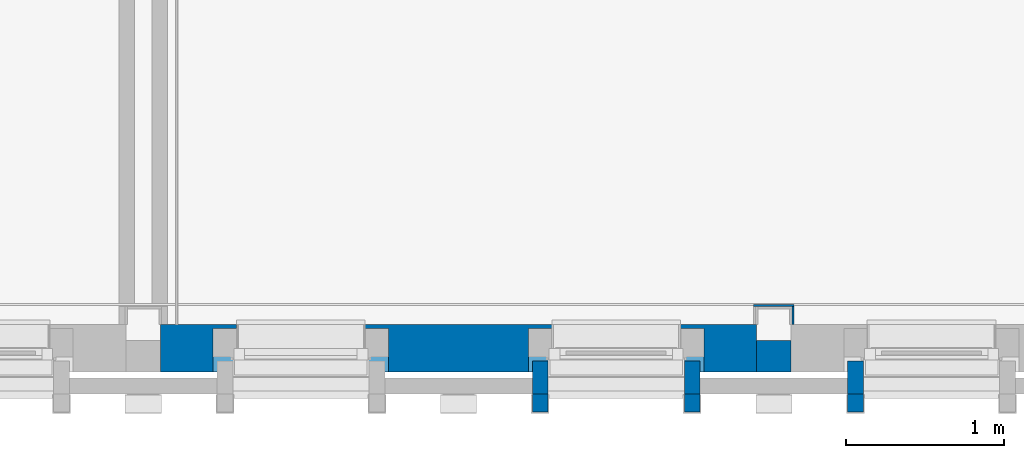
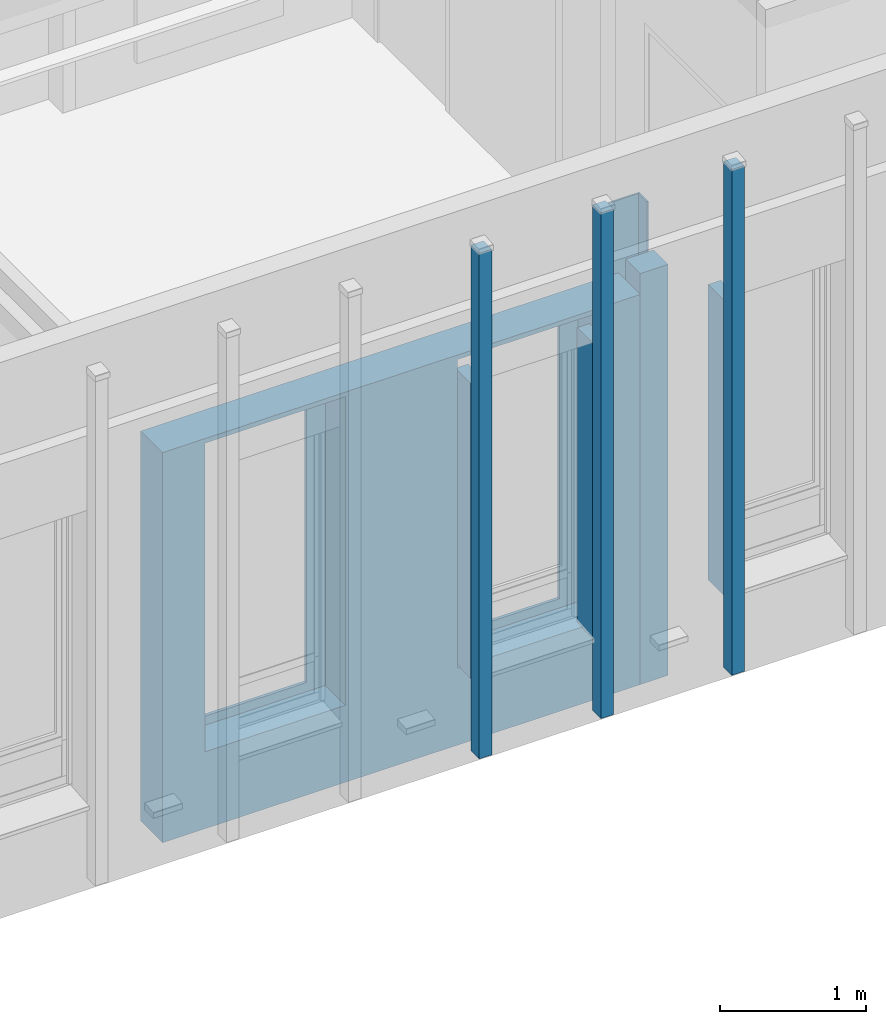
# One storey, part 38 of 118: 10 walls, 12 openings.
"""IFC2X3 building model written with IfcOpenShell, lengths in millimetres."""

from ifc_helpers import new_model, entity, si_unit, converted_unit, derived_unit, direction, frame, frame_2d, origin, place, context, subcontext, project, spatial, rectangle, extrude, faceted_brep, material, layer, layer_set, layer_usage, type_object, element, save


model = new_model("IFC2X3")

# Units and contexts
model_context = context("Model", 3, precision=0.01, world=origin(), true_north=direction((6.123031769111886e-17, 1.0)))
plan_context = context("Plan", 3, precision=0.01, world=origin(), true_north=direction((6.123031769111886e-17, 1.0)))
body_context = subcontext(model_context, "Body", "Model", "MODEL_VIEW")
ifc_project = project(units=[si_unit("LENGTHUNIT", "METRE", prefix="MILLI"), si_unit("AREAUNIT", "SQUARE_METRE"), si_unit("VOLUMEUNIT", "CUBIC_METRE"), converted_unit("PLANEANGLEUNIT", "DEGREE", entity("IfcRatioMeasure", 0.017453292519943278), si_unit("PLANEANGLEUNIT", "RADIAN"), dimensions=[0, 0, 0, 0, 0, 0, 0]), si_unit("MASSUNIT", "GRAM", prefix="KILO"), derived_unit("MASSDENSITYUNIT", [(si_unit("MASSUNIT", "GRAM", prefix="KILO"), 1), (si_unit("LENGTHUNIT", "METRE"), -3)]), derived_unit("IONCONCENTRATIONUNIT", [(si_unit("MASSUNIT", "GRAM", prefix="KILO"), 1), (si_unit("LENGTHUNIT", "METRE"), -3)]), derived_unit("MOMENTOFINERTIAUNIT", [(si_unit("LENGTHUNIT", "METRE"), 4)]), si_unit("TIMEUNIT", "SECOND"), si_unit("FREQUENCYUNIT", "HERTZ"), si_unit("THERMODYNAMICTEMPERATUREUNIT", "DEGREE_CELSIUS"), derived_unit("THERMALTRANSMITTANCEUNIT", [(si_unit("MASSUNIT", "GRAM", prefix="KILO"), 1), (si_unit("THERMODYNAMICTEMPERATUREUNIT", "KELVIN"), -1), (si_unit("TIMEUNIT", "SECOND"), -3)]), derived_unit("THERMALCONDUCTANCEUNIT", [(si_unit("MASSUNIT", "GRAM", prefix="KILO"), 1), (si_unit("THERMODYNAMICTEMPERATUREUNIT", "KELVIN"), -1), (si_unit("TIMEUNIT", "SECOND"), -3), (si_unit("LENGTHUNIT", "METRE"), 1)]), derived_unit("VOLUMETRICFLOWRATEUNIT", [(si_unit("LENGTHUNIT", "METRE"), 3), (si_unit("TIMEUNIT", "SECOND"), -1)]), derived_unit("MASSFLOWRATEUNIT", [(si_unit("MASSUNIT", "GRAM", prefix="KILO"), 1), (si_unit("TIMEUNIT", "SECOND"), -1)]), derived_unit("ROTATIONALFREQUENCYUNIT", [(si_unit("TIMEUNIT", "SECOND"), -1)]), si_unit("ELECTRICCURRENTUNIT", "AMPERE"), si_unit("ELECTRICVOLTAGEUNIT", "VOLT"), si_unit("POWERUNIT", "WATT"), si_unit("FORCEUNIT", "NEWTON", prefix="KILO"), si_unit("ILLUMINANCEUNIT", "LUX"), si_unit("LUMINOUSFLUXUNIT", "LUMEN"), si_unit("LUMINOUSINTENSITYUNIT", "CANDELA"), derived_unit("USERDEFINED", [(si_unit("MASSUNIT", "GRAM", prefix="KILO"), -1), (si_unit("LENGTHUNIT", "METRE"), -2), (si_unit("TIMEUNIT", "SECOND"), 3), (si_unit("LUMINOUSFLUXUNIT", "LUMEN"), 1)]), derived_unit("USERDEFINED", [(si_unit("MASSUNIT", "GRAM", prefix="KILO"), 1), (si_unit("TIMEUNIT", "SECOND"), -3), (si_unit("LENGTHUNIT", "METRE"), 3), (si_unit("ELECTRICCURRENTUNIT", "AMPERE"), -2)]), derived_unit("SOUNDPOWERUNIT", [(si_unit("MASSUNIT", "GRAM", prefix="KILO"), 1), (si_unit("TIMEUNIT", "SECOND"), -3), (si_unit("LENGTHUNIT", "METRE"), 2)]), derived_unit("SOUNDPRESSUREUNIT", [(si_unit("MASSUNIT", "GRAM", prefix="KILO"), 1), (si_unit("LENGTHUNIT", "METRE"), -1), (si_unit("TIMEUNIT", "SECOND"), -2)]), derived_unit("LINEARVELOCITYUNIT", [(si_unit("LENGTHUNIT", "METRE"), 1), (si_unit("TIMEUNIT", "SECOND"), -1)]), si_unit("PRESSUREUNIT", "PASCAL"), derived_unit("USERDEFINED", [(si_unit("MASSUNIT", "GRAM", prefix="KILO"), 1), (si_unit("LENGTHUNIT", "METRE"), -2), (si_unit("TIMEUNIT", "SECOND"), -2)]), derived_unit("LINEARFORCEUNIT", [(si_unit("MASSUNIT", "GRAM", prefix="KILO"), 1), (si_unit("TIMEUNIT", "SECOND"), -2)]), derived_unit("PLANARFORCEUNIT", [(si_unit("MASSUNIT", "GRAM", prefix="KILO"), 1), (si_unit("LENGTHUNIT", "METRE"), -1), (si_unit("TIMEUNIT", "SECOND"), -2)]), derived_unit("SPECIFICHEATCAPACITYUNIT", [(si_unit("THERMODYNAMICTEMPERATUREUNIT", "KELVIN"), -1), (si_unit("LENGTHUNIT", "METRE"), 2), (si_unit("TIMEUNIT", "SECOND"), -2)]), derived_unit("HEATINGVALUEUNIT", [(si_unit("LENGTHUNIT", "METRE"), 2), (si_unit("TIMEUNIT", "SECOND"), -2)]), derived_unit("VAPORPERMEABILITYUNIT", [(si_unit("LENGTHUNIT", "METRE"), -1), (si_unit("TIMEUNIT", "SECOND"), 1)]), derived_unit("DYNAMICVISCOSITYUNIT", [(si_unit("MASSUNIT", "GRAM", prefix="KILO"), 1), (si_unit("TIMEUNIT", "SECOND"), -1), (si_unit("LENGTHUNIT", "METRE"), -1)]), derived_unit("THERMALEXPANSIONCOEFFICIENTUNIT", [(si_unit("THERMODYNAMICTEMPERATUREUNIT", "KELVIN"), -1)]), derived_unit("MODULUSOFELASTICITYUNIT", [(si_unit("MASSUNIT", "GRAM", prefix="KILO"), 1), (si_unit("LENGTHUNIT", "METRE"), -1), (si_unit("TIMEUNIT", "SECOND"), -2)]), derived_unit("ISOTHERMALMOISTURECAPACITYUNIT", [(si_unit("LENGTHUNIT", "METRE"), 3), (si_unit("MASSUNIT", "GRAM", prefix="KILO"), -1)]), derived_unit("MOISTUREDIFFUSIVITYUNIT", [(si_unit("TIMEUNIT", "SECOND"), -1), (si_unit("LENGTHUNIT", "METRE"), 2)])], contexts=[model_context, plan_context])

# Site, building, storey
site_placement = place(None, origin())
site = spatial("IfcSite", under=ifc_project, at=site_placement, Name="Locatie", CompositionType="ELEMENT")
building_placement = place(site_placement, origin())
building = spatial("IfcBuilding", under=site, at=building_placement, Name="Bouwwerk", CompositionType="ELEMENT")
storey_placement = place(building_placement, frame((0.0, 0.0, 7800.0)))
storey = spatial("IfcBuildingStorey", under=building, at=storey_placement, Name="02 tweede verdieping", CompositionType="ELEMENT", Elevation=7800.000000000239)

# Wall, openings
ifc_material_1 = material(Name="n7_isolatie_glaswol")
ifc_layer_1 = layer(ifc_material_1, 30.0)
ifc_layer_2 = layer(ifc_material_1, 245.0)
ifc_material_2 = material(Name="i4_multiplex")
ifc_layer_3 = layer(ifc_material_2, 12.0)
ifc_material_3 = material(Name="f7_gipsvezel")
ifc_layer_4 = layer(ifc_material_3, 13.000000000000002)
ifc_layer_set_1 = layer_set([ifc_layer_1, ifc_layer_2, ifc_layer_3, ifc_layer_4], Name="Basic Wall:NLRS_22_WA_HSB bispouw 30-245-12-13 glaswol_gen_ISR")
ifc_layer_usage_1 = layer_usage(ifc_layer_set_1, "AXIS2", "NEGATIVE", 150.0)
wall_type_1 = type_object("IfcWallType", Name="Basic Wall:NLRS_22_WA_HSB bispouw 30-245-12-13 glaswol_gen_ISR", PredefinedType="STANDARD", material=ifc_layer_set_1)
wall_1_placement = place(storey_placement, frame((28190.0, 9850.0, -30.0), z_axis=(0.0, 0.0, 1.0), x_axis=(-1.0, 0.0, 0.0)))
wall_1 = element("IfcWallStandardCase", 1, at=wall_1_placement, inside=storey, type_object=wall_type_1, material=ifc_layer_usage_1, Name="Basic Wall:NLRS_22_WA_HSB bispouw 30-245-12-13 glaswol_gen_ISR", ObjectType="Basic Wall:NLRS_22_WA_HSB bispouw 30-245-12-13 glaswol_gen_ISR", context=body_context, shape_type="SweptSolid", body=[
    extrude(rectangle(XDim=3780.0000000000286, YDim=300.0000000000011, at=frame_2d((1890.0000000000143, 0.0), x_axis=(-1.0, 0.0))), origin(), (0.0, 0.0, 1.0), 3265.000000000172),
])
opening_1_placement = place(wall_1_placement, frame((-4554.0, 290.0, 633.0)))
element("IfcOpeningElement", 2, at=opening_1_placement, cuts=wall_1, Name="Basic Wall:NLRS_22_WA_HSB bispouw 30-245-12-13 glaswol_gen_ISR", ObjectType="Opening", context=body_context, shape_type="Brep", body=[
    faceted_brep([(-24.0, -100.0, 2472.0), (-103.0, -100.0, 2472.0), (-103.0, -100.0, 42.0), (-1009.0, -100.0, 42.0), (-1009.0, -100.0, 2472.0), (-1088.0, -100.0, 2472.0), (-1088.0, -100.0, 0.0), (-24.0, -100.0, 0.0), (-1088.0, 0.0, 2472.0), (-24.0, 0.0, 2472.0), (-24.0, 0.0, 0.0), (-1088.0, 0.0, 0.0), (-1112.0, -415.0, 2594.0), (-1112.0, -415.0, 11.0), (0.0, -415.0, 11.0), (0.0, -415.0, 2594.0), (-964.0, -415.0, 2443.0), (-148.0, -415.0, 2443.0), (-148.0, -415.0, 87.0), (-964.0, -415.0, 87.0), (-1112.0, -140.0, 2594.0), (0.0, -140.0, 2594.0), (0.0, -140.0, 11.0), (-1112.0, -140.0, 11.0), (-1009.0, -140.0, 42.0), (-103.0, -140.0, 42.0), (-103.0, -140.0, 2508.0), (-1009.0, -140.0, 2508.0), (-103.0, -100.0, 2508.0), (-1009.0, -100.0, 2508.0), (-964.0, -615.0, 2443.0), (-964.0, -615.0, 87.0), (-148.0, -615.0, 87.0), (-148.0, -615.0, 2443.0)], [[[0, 1, 2, 3, 4, 5, 6, 7]], [[8, 9, 10, 11]], [[5, 8, 11, 6]], [[6, 11, 10, 7]], [[7, 10, 9, 0]], [[8, 5, 4, 1, 0, 9]], [[12, 13, 14, 15], [16, 17, 18, 19]], [[20, 21, 22, 23], [24, 25, 26, 27]], [[12, 20, 23, 13]], [[13, 23, 22, 14]], [[14, 22, 21, 15]], [[15, 21, 20, 12]], [[28, 1, 4, 29]], [[24, 27, 29, 4, 3]], [[3, 2, 25, 24]], [[2, 1, 28, 26, 25]], [[29, 27, 26, 28]], [[30, 31, 32, 33]], [[30, 16, 19, 31]], [[31, 19, 18, 32]], [[32, 18, 17, 33]], [[33, 17, 16, 30]]]),
])
opening_2_placement = place(wall_1_placement, frame((-2554.0, 290.0, 633.0)))
element("IfcOpeningElement", 3, at=opening_2_placement, cuts=wall_1, Name="Basic Wall:NLRS_22_WA_HSB bispouw 30-245-12-13 glaswol_gen_ISR", ObjectType="Opening", context=body_context, shape_type="Brep", body=[
    faceted_brep([(-24.0, -100.0, 2472.0), (-103.0, -100.0, 2472.0), (-103.0, -100.0, 42.0), (-1009.0, -100.0, 42.0), (-1009.0, -100.0, 2472.0), (-1088.0, -100.0, 2472.0), (-1088.0, -100.0, 0.0), (-24.0, -100.0, 0.0), (-1088.0, 0.0, 2472.0), (-24.0, 0.0, 2472.0), (-24.0, 0.0, 0.0), (-1088.0, 0.0, 0.0), (-1112.0, -415.0, 2594.0), (-1112.0, -415.0, 11.0), (0.0, -415.0, 11.0), (0.0, -415.0, 2594.0), (-964.0, -415.0, 2443.0), (-148.0, -415.0, 2443.0), (-148.0, -415.0, 87.0), (-964.0, -415.0, 87.0), (-1112.0, -140.0, 2594.0), (0.0, -140.0, 2594.0), (0.0, -140.0, 11.0), (-1112.0, -140.0, 11.0), (-1009.0, -140.0, 42.0), (-103.0, -140.0, 42.0), (-103.0, -140.0, 2508.0), (-1009.0, -140.0, 2508.0), (-103.0, -100.0, 2508.0), (-1009.0, -100.0, 2508.0), (-964.0, -615.0, 2443.0), (-964.0, -615.0, 87.0), (-148.0, -615.0, 87.0), (-148.0, -615.0, 2443.0)], [[[0, 1, 2, 3, 4, 5, 6, 7]], [[8, 9, 10, 11]], [[5, 8, 11, 6]], [[6, 11, 10, 7]], [[7, 10, 9, 0]], [[8, 5, 4, 1, 0, 9]], [[12, 13, 14, 15], [16, 17, 18, 19]], [[20, 21, 22, 23], [24, 25, 26, 27]], [[12, 20, 23, 13]], [[13, 23, 22, 14]], [[14, 22, 21, 15]], [[15, 21, 20, 12]], [[28, 1, 4, 29]], [[24, 27, 29, 4, 3]], [[3, 2, 25, 24]], [[2, 1, 28, 26, 25]], [[29, 27, 26, 28]], [[30, 31, 32, 33]], [[30, 16, 19, 31]], [[31, 19, 18, 32]], [[32, 18, 17, 33]], [[33, 17, 16, 30]]]),
])
opening_3_placement = place(wall_1_placement, frame((-554.0, 290.0, 633.0)))
element("IfcOpeningElement", 4, at=opening_3_placement, cuts=wall_1, Name="Basic Wall:NLRS_22_WA_HSB bispouw 30-245-12-13 glaswol_gen_ISR", ObjectType="Opening", context=body_context, shape_type="Brep", body=[
    faceted_brep([(-24.0, -100.0, 2472.0), (-103.0, -100.0, 2472.0), (-103.0, -100.0, 42.0), (-1009.0, -100.0, 42.0), (-1009.0, -100.0, 2472.0), (-1088.0, -100.0, 2472.0), (-1088.0, -100.0, 0.0), (-24.0, -100.0, 0.0), (-1088.0, 0.0, 2472.0), (-24.0, 0.0, 2472.0), (-24.0, 0.0, 0.0), (-1088.0, 0.0, 0.0), (-1112.0, -415.0, 2594.0), (-1112.0, -415.0, 11.0), (0.0, -415.0, 11.0), (0.0, -415.0, 2594.0), (-964.0, -415.0, 2443.0), (-148.0, -415.0, 2443.0), (-148.0, -415.0, 87.0), (-964.0, -415.0, 87.0), (-1112.0, -140.0, 2594.0), (0.0, -140.0, 2594.0), (0.0, -140.0, 11.0), (-1112.0, -140.0, 11.0), (-1009.0, -140.0, 42.0), (-103.0, -140.0, 42.0), (-103.0, -140.0, 2508.0), (-1009.0, -140.0, 2508.0), (-103.0, -100.0, 2508.0), (-1009.0, -100.0, 2508.0), (-964.0, -615.0, 2443.0), (-964.0, -615.0, 87.0), (-148.0, -615.0, 87.0), (-148.0, -615.0, 2443.0)], [[[0, 1, 2, 3, 4, 5, 6, 7]], [[8, 9, 10, 11]], [[5, 8, 11, 6]], [[6, 11, 10, 7]], [[7, 10, 9, 0]], [[8, 5, 4, 1, 0, 9]], [[12, 13, 14, 15], [16, 17, 18, 19]], [[20, 21, 22, 23], [24, 25, 26, 27]], [[12, 20, 23, 13]], [[13, 23, 22, 14]], [[14, 22, 21, 15]], [[15, 21, 20, 12]], [[28, 1, 4, 29]], [[24, 27, 29, 4, 3]], [[3, 2, 25, 24]], [[2, 1, 28, 26, 25]], [[29, 27, 26, 28]], [[30, 31, 32, 33]], [[30, 16, 19, 31]], [[31, 19, 18, 32]], [[32, 18, 17, 33]], [[33, 17, 16, 30]]]),
])
opening_4_placement = place(wall_1_placement, frame((7446.0, 290.0, 633.0)))
element("IfcOpeningElement", 5, at=opening_4_placement, cuts=wall_1, Name="Basic Wall:NLRS_22_WA_HSB bispouw 30-245-12-13 glaswol_gen_ISR", ObjectType="Opening", context=body_context, shape_type="Brep", body=[
    faceted_brep([(-24.0, -100.0, 2472.0), (-103.0, -100.0, 2472.0), (-103.0, -100.0, 42.0), (-1009.0, -100.0, 42.0), (-1009.0, -100.0, 2472.0), (-1088.0, -100.0, 2472.0), (-1088.0, -100.0, 0.0), (-24.0, -100.0, 0.0), (-1088.0, 0.0, 2472.0), (-24.0, 0.0, 2472.0), (-24.0, 0.0, 0.0), (-1088.0, 0.0, 0.0), (-1112.0, -415.0, 2594.0), (-1112.0, -415.0, 11.0), (0.0, -415.0, 11.0), (0.0, -415.0, 2594.0), (-964.0, -415.0, 2443.0), (-148.0, -415.0, 2443.0), (-148.0, -415.0, 87.0), (-964.0, -415.0, 87.0), (-1112.0, -140.0, 2594.0), (0.0, -140.0, 2594.0), (0.0, -140.0, 11.0), (-1112.0, -140.0, 11.0), (-1009.0, -140.0, 42.0), (-103.0, -140.0, 42.0), (-103.0, -140.0, 2508.0), (-1009.0, -140.0, 2508.0), (-103.0, -100.0, 2508.0), (-1009.0, -100.0, 2508.0), (-964.0, -615.0, 2443.0), (-964.0, -615.0, 87.0), (-148.0, -615.0, 87.0), (-148.0, -615.0, 2443.0)], [[[0, 1, 2, 3, 4, 5, 6, 7]], [[8, 9, 10, 11]], [[5, 8, 11, 6]], [[6, 11, 10, 7]], [[7, 10, 9, 0]], [[8, 5, 4, 1, 0, 9]], [[12, 13, 14, 15], [16, 17, 18, 19]], [[20, 21, 22, 23], [24, 25, 26, 27]], [[12, 20, 23, 13]], [[13, 23, 22, 14]], [[14, 22, 21, 15]], [[15, 21, 20, 12]], [[28, 1, 4, 29]], [[24, 27, 29, 4, 3]], [[3, 2, 25, 24]], [[2, 1, 28, 26, 25]], [[29, 27, 26, 28]], [[30, 31, 32, 33]], [[30, 16, 19, 31]], [[31, 19, 18, 32]], [[32, 18, 17, 33]], [[33, 17, 16, 30]]]),
])
opening_5_placement = place(wall_1_placement, frame((9446.0, 290.0, 633.0)))
element("IfcOpeningElement", 6, at=opening_5_placement, cuts=wall_1, Name="Basic Wall:NLRS_22_WA_HSB bispouw 30-245-12-13 glaswol_gen_ISR", ObjectType="Opening", context=body_context, shape_type="Brep", body=[
    faceted_brep([(-24.0, -100.0, 2472.0), (-103.0, -100.0, 2472.0), (-103.0, -100.0, 42.0), (-1009.0, -100.0, 42.0), (-1009.0, -100.0, 2472.0), (-1088.0, -100.0, 2472.0), (-1088.0, -100.0, 0.0), (-24.0, -100.0, 0.0), (-1088.0, 0.0, 2472.0), (-24.0, 0.0, 2472.0), (-24.0, 0.0, 0.0), (-1088.0, 0.0, 0.0), (-1112.0, -415.0, 2594.0), (-1112.0, -415.0, 11.0), (0.0, -415.0, 11.0), (0.0, -415.0, 2594.0), (-964.0, -415.0, 2443.0), (-148.0, -415.0, 2443.0), (-148.0, -415.0, 87.0), (-964.0, -415.0, 87.0), (-1112.0, -140.0, 2594.0), (0.0, -140.0, 2594.0), (0.0, -140.0, 11.0), (-1112.0, -140.0, 11.0), (-1009.0, -140.0, 42.0), (-103.0, -140.0, 42.0), (-103.0, -140.0, 2508.0), (-1009.0, -140.0, 2508.0), (-103.0, -100.0, 2508.0), (-1009.0, -100.0, 2508.0), (-964.0, -615.0, 2443.0), (-964.0, -615.0, 87.0), (-148.0, -615.0, 87.0), (-148.0, -615.0, 2443.0)], [[[0, 1, 2, 3, 4, 5, 6, 7]], [[8, 9, 10, 11]], [[5, 8, 11, 6]], [[6, 11, 10, 7]], [[7, 10, 9, 0]], [[8, 5, 4, 1, 0, 9]], [[12, 13, 14, 15], [16, 17, 18, 19]], [[20, 21, 22, 23], [24, 25, 26, 27]], [[12, 20, 23, 13]], [[13, 23, 22, 14]], [[14, 22, 21, 15]], [[15, 21, 20, 12]], [[28, 1, 4, 29]], [[24, 27, 29, 4, 3]], [[3, 2, 25, 24]], [[2, 1, 28, 26, 25]], [[29, 27, 26, 28]], [[30, 31, 32, 33]], [[30, 16, 19, 31]], [[31, 19, 18, 32]], [[32, 18, 17, 33]], [[33, 17, 16, 30]]]),
])
opening_6_placement = place(wall_1_placement, frame((11446.0, 290.0, 633.0)))
element("IfcOpeningElement", 7, at=opening_6_placement, cuts=wall_1, Name="Basic Wall:NLRS_22_WA_HSB bispouw 30-245-12-13 glaswol_gen_ISR", ObjectType="Opening", context=body_context, shape_type="Brep", body=[
    faceted_brep([(-24.0, -100.0, 2472.0), (-103.0, -100.0, 2472.0), (-103.0, -100.0, 42.0), (-1009.0, -100.0, 42.0), (-1009.0, -100.0, 2472.0), (-1088.0, -100.0, 2472.0), (-1088.0, -100.0, 0.0), (-24.0, -100.0, 0.0), (-1088.0, 0.0, 2472.0), (-24.0, 0.0, 2472.0), (-24.0, 0.0, 0.0), (-1088.0, 0.0, 0.0), (-1112.0, -415.0, 2594.0), (-1112.0, -415.0, 11.0), (0.0, -415.0, 11.0), (0.0, -415.0, 2594.0), (-964.0, -415.0, 2443.0), (-148.0, -415.0, 2443.0), (-148.0, -415.0, 87.0), (-964.0, -415.0, 87.0), (-1112.0, -140.0, 2594.0), (0.0, -140.0, 2594.0), (0.0, -140.0, 11.0), (-1112.0, -140.0, 11.0), (-1009.0, -140.0, 42.0), (-103.0, -140.0, 42.0), (-103.0, -140.0, 2508.0), (-1009.0, -140.0, 2508.0), (-103.0, -100.0, 2508.0), (-1009.0, -100.0, 2508.0), (-964.0, -615.0, 2443.0), (-964.0, -615.0, 87.0), (-148.0, -615.0, 87.0), (-148.0, -615.0, 2443.0)], [[[0, 1, 2, 3, 4, 5, 6, 7]], [[8, 9, 10, 11]], [[5, 8, 11, 6]], [[6, 11, 10, 7]], [[7, 10, 9, 0]], [[8, 5, 4, 1, 0, 9]], [[12, 13, 14, 15], [16, 17, 18, 19]], [[20, 21, 22, 23], [24, 25, 26, 27]], [[12, 20, 23, 13]], [[13, 23, 22, 14]], [[14, 22, 21, 15]], [[15, 21, 20, 12]], [[28, 1, 4, 29]], [[24, 27, 29, 4, 3]], [[3, 2, 25, 24]], [[2, 1, 28, 26, 25]], [[29, 27, 26, 28]], [[30, 31, 32, 33]], [[30, 16, 19, 31]], [[31, 19, 18, 32]], [[32, 18, 17, 33]], [[33, 17, 16, 30]]]),
])
opening_7_placement = place(wall_1_placement, frame((13446.0, 290.0, 633.0)))
element("IfcOpeningElement", 8, at=opening_7_placement, cuts=wall_1, Name="Basic Wall:NLRS_22_WA_HSB bispouw 30-245-12-13 glaswol_gen_ISR", ObjectType="Opening", context=body_context, shape_type="Brep", body=[
    faceted_brep([(-24.0, -100.0, 2472.0), (-103.0, -100.0, 2472.0), (-103.0, -100.0, 42.0), (-1009.0, -100.0, 42.0), (-1009.0, -100.0, 2472.0), (-1088.0, -100.0, 2472.0), (-1088.0, -100.0, 0.0), (-24.0, -100.0, 0.0), (-1088.0, 0.0, 2472.0), (-24.0, 0.0, 2472.0), (-24.0, 0.0, 0.0), (-1088.0, 0.0, 0.0), (-1112.0, -415.0, 2594.0), (-1112.0, -415.0, 11.0), (0.0, -415.0, 11.0), (0.0, -415.0, 2594.0), (-964.0, -415.0, 2443.0), (-148.0, -415.0, 2443.0), (-148.0, -415.0, 87.0), (-964.0, -415.0, 87.0), (-1112.0, -140.0, 2594.0), (0.0, -140.0, 2594.0), (0.0, -140.0, 11.0), (-1112.0, -140.0, 11.0), (-1009.0, -140.0, 42.0), (-103.0, -140.0, 42.0), (-103.0, -140.0, 2508.0), (-1009.0, -140.0, 2508.0), (-103.0, -100.0, 2508.0), (-1009.0, -100.0, 2508.0), (-964.0, -615.0, 2443.0), (-964.0, -615.0, 87.0), (-148.0, -615.0, 87.0), (-148.0, -615.0, 2443.0)], [[[0, 1, 2, 3, 4, 5, 6, 7]], [[8, 9, 10, 11]], [[5, 8, 11, 6]], [[6, 11, 10, 7]], [[7, 10, 9, 0]], [[8, 5, 4, 1, 0, 9]], [[12, 13, 14, 15], [16, 17, 18, 19]], [[20, 21, 22, 23], [24, 25, 26, 27]], [[12, 20, 23, 13]], [[13, 23, 22, 14]], [[14, 22, 21, 15]], [[15, 21, 20, 12]], [[28, 1, 4, 29]], [[24, 27, 29, 4, 3]], [[3, 2, 25, 24]], [[2, 1, 28, 26, 25]], [[29, 27, 26, 28]], [[30, 31, 32, 33]], [[30, 16, 19, 31]], [[31, 19, 18, 32]], [[32, 18, 17, 33]], [[33, 17, 16, 30]]]),
])
opening_8_placement = place(wall_1_placement, frame((15446.0, 290.0, 633.0)))
element("IfcOpeningElement", 9, at=opening_8_placement, cuts=wall_1, Name="Basic Wall:NLRS_22_WA_HSB bispouw 30-245-12-13 glaswol_gen_ISR", ObjectType="Opening", context=body_context, shape_type="Brep", body=[
    faceted_brep([(-24.0, -100.0, 2472.0), (-103.0, -100.0, 2472.0), (-103.0, -100.0, 42.0), (-1009.0, -100.0, 42.0), (-1009.0, -100.0, 2472.0), (-1088.0, -100.0, 2472.0), (-1088.0, -100.0, 0.0), (-24.0, -100.0, 0.0), (-1088.0, 0.0, 2472.0), (-24.0, 0.0, 2472.0), (-24.0, 0.0, 0.0), (-1088.0, 0.0, 0.0), (-1112.0, -415.0, 2594.0), (-1112.0, -415.0, 11.0), (0.0, -415.0, 11.0), (0.0, -415.0, 2594.0), (-964.0, -415.0, 2443.0), (-148.0, -415.0, 2443.0), (-148.0, -415.0, 87.0), (-964.0, -415.0, 87.0), (-1112.0, -140.0, 2594.0), (0.0, -140.0, 2594.0), (0.0, -140.0, 11.0), (-1112.0, -140.0, 11.0), (-1009.0, -140.0, 42.0), (-103.0, -140.0, 42.0), (-103.0, -140.0, 2508.0), (-1009.0, -140.0, 2508.0), (-103.0, -100.0, 2508.0), (-1009.0, -100.0, 2508.0), (-964.0, -615.0, 2443.0), (-964.0, -615.0, 87.0), (-148.0, -615.0, 87.0), (-148.0, -615.0, 2443.0)], [[[0, 1, 2, 3, 4, 5, 6, 7]], [[8, 9, 10, 11]], [[5, 8, 11, 6]], [[6, 11, 10, 7]], [[7, 10, 9, 0]], [[8, 5, 4, 1, 0, 9]], [[12, 13, 14, 15], [16, 17, 18, 19]], [[20, 21, 22, 23], [24, 25, 26, 27]], [[12, 20, 23, 13]], [[13, 23, 22, 14]], [[14, 22, 21, 15]], [[15, 21, 20, 12]], [[28, 1, 4, 29]], [[24, 27, 29, 4, 3]], [[3, 2, 25, 24]], [[2, 1, 28, 26, 25]], [[29, 27, 26, 28]], [[30, 31, 32, 33]], [[30, 16, 19, 31]], [[31, 19, 18, 32]], [[32, 18, 17, 33]], [[33, 17, 16, 30]]]),
])
opening_9_placement = place(wall_1_placement, frame((17446.0, 290.0, 633.0)))
element("IfcOpeningElement", 10, at=opening_9_placement, cuts=wall_1, Name="Basic Wall:NLRS_22_WA_HSB bispouw 30-245-12-13 glaswol_gen_ISR", ObjectType="Opening", context=body_context, shape_type="Brep", body=[
    faceted_brep([(-24.0, -100.0, 2472.0), (-103.0, -100.0, 2472.0), (-103.0, -100.0, 42.0), (-1009.0, -100.0, 42.0), (-1009.0, -100.0, 2472.0), (-1088.0, -100.0, 2472.0), (-1088.0, -100.0, 0.0), (-24.0, -100.0, 0.0), (-1088.0, 0.0, 2472.0), (-24.0, 0.0, 2472.0), (-24.0, 0.0, 0.0), (-1088.0, 0.0, 0.0), (-1112.0, -415.0, 2594.0), (-1112.0, -415.0, 11.0), (0.0, -415.0, 11.0), (0.0, -415.0, 2594.0), (-964.0, -415.0, 2443.0), (-148.0, -415.0, 2443.0), (-148.0, -415.0, 87.0), (-964.0, -415.0, 87.0), (-1112.0, -140.0, 2594.0), (0.0, -140.0, 2594.0), (0.0, -140.0, 11.0), (-1112.0, -140.0, 11.0), (-1009.0, -140.0, 42.0), (-103.0, -140.0, 42.0), (-103.0, -140.0, 2508.0), (-1009.0, -140.0, 2508.0), (-103.0, -100.0, 2508.0), (-1009.0, -100.0, 2508.0), (-964.0, -615.0, 2443.0), (-964.0, -615.0, 87.0), (-148.0, -615.0, 87.0), (-148.0, -615.0, 2443.0)], [[[0, 1, 2, 3, 4, 5, 6, 7]], [[8, 9, 10, 11]], [[5, 8, 11, 6]], [[6, 11, 10, 7]], [[7, 10, 9, 0]], [[8, 5, 4, 1, 0, 9]], [[12, 13, 14, 15], [16, 17, 18, 19]], [[20, 21, 22, 23], [24, 25, 26, 27]], [[12, 20, 23, 13]], [[13, 23, 22, 14]], [[14, 22, 21, 15]], [[15, 21, 20, 12]], [[28, 1, 4, 29]], [[24, 27, 29, 4, 3]], [[3, 2, 25, 24]], [[2, 1, 28, 26, 25]], [[29, 27, 26, 28]], [[30, 31, 32, 33]], [[30, 16, 19, 31]], [[31, 19, 18, 32]], [[32, 18, 17, 33]], [[33, 17, 16, 30]]]),
])
opening_10_placement = place(wall_1_placement, frame((5446.0, 290.0, 633.0)))
element("IfcOpeningElement", 11, at=opening_10_placement, cuts=wall_1, Name="Basic Wall:NLRS_22_WA_HSB bispouw 30-245-12-13 glaswol_gen_ISR", ObjectType="Opening", context=body_context, shape_type="Brep", body=[
    faceted_brep([(-24.0, -100.0, 2472.0), (-103.0, -100.0, 2472.0), (-103.0, -100.0, 42.0), (-1009.0, -100.0, 42.0), (-1009.0, -100.0, 2472.0), (-1088.0, -100.0, 2472.0), (-1088.0, -100.0, 0.0), (-24.0, -100.0, 0.0), (-1088.0, 0.0, 2472.0), (-24.0, 0.0, 2472.0), (-24.0, 0.0, 0.0), (-1088.0, 0.0, 0.0), (-1112.0, -415.0, 2594.0), (-1112.0, -415.0, 11.0), (0.0, -415.0, 11.0), (0.0, -415.0, 2594.0), (-964.0, -415.0, 2443.0), (-148.0, -415.0, 2443.0), (-148.0, -415.0, 87.0), (-964.0, -415.0, 87.0), (-1112.0, -140.0, 2594.0), (0.0, -140.0, 2594.0), (0.0, -140.0, 11.0), (-1112.0, -140.0, 11.0), (-1009.0, -140.0, 42.0), (-103.0, -140.0, 42.0), (-103.0, -140.0, 2508.0), (-1009.0, -140.0, 2508.0), (-103.0, -100.0, 2508.0), (-1009.0, -100.0, 2508.0), (-964.0, -615.0, 2443.0), (-964.0, -615.0, 87.0), (-148.0, -615.0, 87.0), (-148.0, -615.0, 2443.0)], [[[0, 1, 2, 3, 4, 5, 6, 7]], [[8, 9, 10, 11]], [[5, 8, 11, 6]], [[6, 11, 10, 7]], [[7, 10, 9, 0]], [[8, 5, 4, 1, 0, 9]], [[12, 13, 14, 15], [16, 17, 18, 19]], [[20, 21, 22, 23], [24, 25, 26, 27]], [[12, 20, 23, 13]], [[13, 23, 22, 14]], [[14, 22, 21, 15]], [[15, 21, 20, 12]], [[28, 1, 4, 29]], [[24, 27, 29, 4, 3]], [[3, 2, 25, 24]], [[2, 1, 28, 26, 25]], [[29, 27, 26, 28]], [[30, 31, 32, 33]], [[30, 16, 19, 31]], [[31, 19, 18, 32]], [[32, 18, 17, 33]], [[33, 17, 16, 30]]]),
])
opening_11_placement = place(wall_1_placement, frame((3446.0, 290.0, 633.0), z_axis=(0.0, 0.0, 1.0), x_axis=(-1.0, 0.0, 0.0)))
element("IfcOpeningElement", 12, at=opening_11_placement, cuts=wall_1, Name="Basic Wall:NLRS_22_WA_HSB bispouw 30-245-12-13 glaswol_gen_ISR", ObjectType="Opening", context=body_context, shape_type="Brep", body=[
    faceted_brep([(24.0, 100.0, 2472.0), (103.0, 100.0, 2472.0), (103.0, 100.0, 42.0), (1009.0, 100.0, 42.0), (1009.0, 100.0, 2472.0), (1088.0, 100.0, 2472.0), (1088.0, 100.0, 0.0), (24.0, 100.0, 0.0), (1088.0, 0.0, 2472.0), (24.0, 0.0, 2472.0), (24.0, 0.0, 0.0), (1088.0, 0.0, 0.0), (1112.0, 415.0, 2594.0), (1112.0, 415.0, 11.0), (0.0, 415.0, 11.0), (0.0, 415.0, 2594.0), (964.0, 415.0, 2443.0), (148.0, 415.0, 2443.0), (148.0, 415.0, 87.0), (964.0, 415.0, 87.0), (1112.0, 140.0, 2594.0), (0.0, 140.0, 2594.0), (0.0, 140.0, 11.0), (1112.0, 140.0, 11.0), (1009.0, 140.0, 42.0), (103.0, 140.0, 42.0), (103.0, 140.0, 2508.0), (1009.0, 140.0, 2508.0), (103.0, 100.0, 2508.0), (1009.0, 100.0, 2508.0), (964.0, 615.0, 2443.0), (964.0, 615.0, 87.0), (148.0, 615.0, 87.0), (148.0, 615.0, 2443.0)], [[[0, 1, 2, 3, 4, 5, 6, 7]], [[8, 9, 10, 11]], [[5, 8, 11, 6]], [[6, 11, 10, 7]], [[7, 10, 9, 0]], [[8, 5, 4, 1, 0, 9]], [[12, 13, 14, 15], [16, 17, 18, 19]], [[20, 21, 22, 23], [24, 25, 26, 27]], [[12, 20, 23, 13]], [[13, 23, 22, 14]], [[14, 22, 21, 15]], [[15, 21, 20, 12]], [[28, 1, 4, 29]], [[24, 27, 29, 4, 3]], [[3, 2, 25, 24]], [[2, 1, 28, 26, 25]], [[29, 27, 26, 28]], [[30, 31, 32, 33]], [[30, 16, 19, 31]], [[31, 19, 18, 32]], [[32, 18, 17, 33]], [[33, 17, 16, 30]]]),
])
opening_12_placement = place(wall_1_placement, frame((1446.0, 290.0, 633.0), z_axis=(0.0, 0.0, 1.0), x_axis=(-1.0, 0.0, 0.0)))
element("IfcOpeningElement", 13, at=opening_12_placement, cuts=wall_1, Name="Basic Wall:NLRS_22_WA_HSB bispouw 30-245-12-13 glaswol_gen_ISR", ObjectType="Opening", context=body_context, shape_type="Brep", body=[
    faceted_brep([(24.0, 100.0, 2472.0), (103.0, 100.0, 2472.0), (103.0, 100.0, 42.0), (1009.0, 100.0, 42.0), (1009.0, 100.0, 2472.0), (1088.0, 100.0, 2472.0), (1088.0, 100.0, 0.0), (24.0, 100.0, 0.0), (1088.0, 0.0, 2472.0), (24.0, 0.0, 2472.0), (24.0, 0.0, 0.0), (1088.0, 0.0, 0.0), (1112.0, 415.0, 2594.0), (1112.0, 415.0, 11.0), (0.0, 415.0, 11.0), (0.0, 415.0, 2594.0), (964.0, 415.0, 2443.0), (148.0, 415.0, 2443.0), (148.0, 415.0, 87.0), (964.0, 415.0, 87.0), (1112.0, 140.0, 2594.0), (0.0, 140.0, 2594.0), (0.0, 140.0, 11.0), (1112.0, 140.0, 11.0), (1009.0, 140.0, 42.0), (103.0, 140.0, 42.0), (103.0, 140.0, 2508.0), (1009.0, 140.0, 2508.0), (103.0, 100.0, 2508.0), (1009.0, 100.0, 2508.0), (964.0, 615.0, 2443.0), (964.0, 615.0, 87.0), (148.0, 615.0, 87.0), (148.0, 615.0, 2443.0)], [[[0, 1, 2, 3, 4, 5, 6, 7]], [[8, 9, 10, 11]], [[5, 8, 11, 6]], [[6, 11, 10, 7]], [[7, 10, 9, 0]], [[8, 5, 4, 1, 0, 9]], [[12, 13, 14, 15], [16, 17, 18, 19]], [[20, 21, 22, 23], [24, 25, 26, 27]], [[12, 20, 23, 13]], [[13, 23, 22, 14]], [[14, 22, 21, 15]], [[15, 21, 20, 12]], [[28, 1, 4, 29]], [[24, 27, 29, 4, 3]], [[3, 2, 25, 24]], [[2, 1, 28, 26, 25]], [[29, 27, 26, 28]], [[30, 31, 32, 33]], [[30, 16, 19, 31]], [[31, 19, 18, 32]], [[32, 18, 17, 33]], [[33, 17, 16, 30]]]),
])

# Walls
ifc_material_4 = material(Name="g2_metselwerk_geel licht")
ifc_layer_5 = layer(ifc_material_4, 100.0)
ifc_layer_set_2 = layer_set([ifc_layer_5], Name="Basic Wall:21_WA_metselwerk_licht_100_gen_bdg")
ifc_layer_usage_2 = layer_usage(ifc_layer_set_2, "AXIS2", "NEGATIVE", 50.0)
wall_type_2 = type_object("IfcWallType", Name="Basic Wall:21_WA_metselwerk_licht_100_gen_bdg", PredefinedType="STANDARD", material=ifc_layer_set_2)
wall_2_placement = place(storey_placement, frame((26818.0, 9770.0, 603.0), z_axis=(0.0, 0.0, 1.0), x_axis=(0.0, -1.0, 0.0)))
element("IfcWallStandardCase", 14, at=wall_2_placement, inside=storey, type_object=wall_type_2, material=ifc_layer_usage_2, Name="Basic Wall:21_WA_metselwerk_licht_100_gen_bdg", ObjectType="Basic Wall:21_WA_metselwerk_licht_100_gen_bdg", context=body_context, shape_type="SweptSolid", body=[
    extrude(rectangle(XDim=210.00000000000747, YDim=100.00000000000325, at=frame_2d((105.00000000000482, -1.7053025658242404e-13), x_axis=(-1.0, 0.0))), origin(), (0.0, 0.0, 1.0), 2471.999999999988),
])
wall_3_placement = place(storey_placement, frame((26818.0, 9560.0, 0.0), z_axis=(0.0, 0.0, 1.0), x_axis=(0.0, -1.0, 0.0)))
element("IfcWallStandardCase", 15, at=wall_3_placement, inside=storey, type_object=wall_type_2, material=ifc_layer_usage_2, Name="Basic Wall:21_WA_metselwerk_licht_100_gen_bdg", ObjectType="Basic Wall:21_WA_metselwerk_licht_100_gen_bdg", context=body_context, shape_type="SweptSolid", body=[
    extrude(rectangle(XDim=115.00000000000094, YDim=100.00000000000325, at=frame_2d((57.50000000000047, 3.730349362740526e-13), x_axis=(-1.0, 0.0))), origin(), (0.0, 0.0, 1.0), 4232.000000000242),
])
ifc_layer_usage_3 = layer_usage(ifc_layer_set_2, "AXIS2", "POSITIVE", -50.0)
wall_4_placement = place(storey_placement, frame((27782.0, 9770.0, 603.0), z_axis=(0.0, 0.0, 1.0), x_axis=(0.0, -1.0, 0.0)))
element("IfcWallStandardCase", 16, at=wall_4_placement, inside=storey, type_object=wall_type_2, material=ifc_layer_usage_3, Name="Basic Wall:21_WA_metselwerk_licht_100_gen_bdg", ObjectType="Basic Wall:21_WA_metselwerk_licht_100_gen_bdg", context=body_context, shape_type="SweptSolid", body=[
    extrude(rectangle(XDim=210.00000000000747, YDim=100.00000000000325, at=frame_2d((105.00000000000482, 1.3145040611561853e-12), x_axis=(-1.0, 0.0))), origin(), (0.0, 0.0, 1.0), 2471.999999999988),
])
wall_5_placement = place(storey_placement, frame((27782.0, 9560.0, 0.0), z_axis=(0.0, 0.0, 1.0), x_axis=(0.0, -1.0, 0.0)))
element("IfcWallStandardCase", 17, at=wall_5_placement, inside=storey, type_object=wall_type_2, material=ifc_layer_usage_3, Name="Basic Wall:21_WA_metselwerk_licht_100_gen_bdg", ObjectType="Basic Wall:21_WA_metselwerk_licht_100_gen_bdg", context=body_context, shape_type="SweptSolid", body=[
    extrude(rectangle(XDim=115.00000000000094, YDim=100.00000000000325, at=frame_2d((57.50000000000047, 3.730349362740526e-13), x_axis=(-1.0, 0.0))), origin(), (0.0, 0.0, 1.0), 4231.99999999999),
])
wall_6_placement = place(storey_placement, frame((28818.0, 9770.0, 603.0), z_axis=(0.0, 0.0, 1.0), x_axis=(0.0, -1.0, 0.0)))
element("IfcWallStandardCase", 18, at=wall_6_placement, inside=storey, type_object=wall_type_2, material=ifc_layer_usage_2, Name="Basic Wall:21_WA_metselwerk_licht_100_gen_bdg", ObjectType="Basic Wall:21_WA_metselwerk_licht_100_gen_bdg", context=body_context, shape_type="SweptSolid", body=[
    extrude(rectangle(XDim=210.00000000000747, YDim=100.00000000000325, at=frame_2d((105.00000000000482, -1.7053025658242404e-13), x_axis=(-1.0, 0.0))), origin(), (0.0, 0.0, 1.0), 2471.999999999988),
])
wall_7_placement = place(storey_placement, frame((28818.0, 9560.0, 0.0), z_axis=(0.0, 0.0, 1.0), x_axis=(0.0, -1.0, 0.0)))
element("IfcWallStandardCase", 19, at=wall_7_placement, inside=storey, type_object=wall_type_2, material=ifc_layer_usage_2, Name="Basic Wall:21_WA_metselwerk_licht_100_gen_bdg", ObjectType="Basic Wall:21_WA_metselwerk_licht_100_gen_bdg", context=body_context, shape_type="SweptSolid", body=[
    extrude(rectangle(XDim=115.00000000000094, YDim=100.00000000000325, at=frame_2d((57.50000000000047, 3.730349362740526e-13), x_axis=(-1.0, 0.0))), origin(), (0.0, 0.0, 1.0), 4232.000000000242),
])
ifc_layer_6 = layer(ifc_material_3, 13.000000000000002)
ifc_layer_set_3 = layer_set([ifc_layer_6], Name="Basic Wall:NLRS_41_WA_gips 13_gen_ISR")
ifc_layer_usage_4 = layer_usage(ifc_layer_set_3, "AXIS2", "NEGATIVE", 6.500000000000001)
wall_type_3 = type_object("IfcWallType", Name="Basic Wall:NLRS_41_WA_gips 13_gen_ISR", PredefinedType="STANDARD", material=ifc_layer_set_3)
wall_8_placement = place(storey_placement, frame((28172.0, 10121.500000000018, 0.0)))
element("IfcWallStandardCase", 20, at=wall_8_placement, inside=storey, type_object=wall_type_3, material=ifc_layer_usage_4, Name="Basic Wall:NLRS_41_WA_gips 13_gen_ISR", ObjectType="Basic Wall:NLRS_41_WA_gips 13_gen_ISR", context=body_context, shape_type="SweptSolid", body=[
    extrude(rectangle(XDim=255.99999999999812, YDim=13.000000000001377, at=frame_2d((127.99999999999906, 0.0), x_axis=(-1.0, 0.0))), origin(), (0.0, 0.0, 1.0), 3750.000000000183),
])
wall_9_placement = place(storey_placement, frame((28421.499999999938, 10115.0, 0.0), z_axis=(0.0, 0.0, 1.0), x_axis=(0.0, -1.0, 0.0)))
element("IfcWallStandardCase", 21, at=wall_9_placement, inside=storey, type_object=wall_type_3, material=ifc_layer_usage_4, Name="Basic Wall:NLRS_41_WA_gips 13_gen_ISR", ObjectType="Basic Wall:NLRS_41_WA_gips 13_gen_ISR", context=body_context, shape_type="SweptSolid", body=[
    extrude(rectangle(XDim=115.00000000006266, YDim=12.999999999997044, at=frame_2d((57.50000000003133, 0.0), x_axis=(-1.0, 0.0))), origin(), (0.0, 0.0, 1.0), 3750.000000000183),
])
ifc_material_5 = material(Name="n7_isolatie_Resol")
ifc_layer_7 = layer(ifc_material_5, 200.0)
ifc_layer_set_4 = layer_set([ifc_layer_7], Name="Basic Wall:NLRS_22_WA_HSB bispouw 200_gen_ISR")
ifc_layer_usage_5 = layer_usage(ifc_layer_set_4, "AXIS2", "NEGATIVE", 100.0)
wall_type_4 = type_object("IfcWallType", Name="Basic Wall:NLRS_22_WA_HSB bispouw 200_gen_ISR", PredefinedType="STANDARD", material=ifc_layer_set_4)
wall_10_placement = place(storey_placement, frame((28410.0, 9800.0, -30.0), z_axis=(0.0, 0.0, 1.0), x_axis=(-1.0, 0.0, 0.0)))
element("IfcWallStandardCase", 22, at=wall_10_placement, inside=storey, type_object=wall_type_4, material=ifc_layer_usage_5, Name="Basic Wall:NLRS_22_WA_HSB bispouw 200_gen_ISR", ObjectType="Basic Wall:NLRS_22_WA_HSB bispouw 200_gen_ISR", context=body_context, shape_type="SweptSolid", body=[
    extrude(rectangle(XDim=220.00000000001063, YDim=200.0, at=frame_2d((110.00000000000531, 6.394884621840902e-13), x_axis=(-1.0, 0.0))), origin(), (0.0, 0.0, 1.0), 3440.0000000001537),
])

save(model, "model.ifc")
